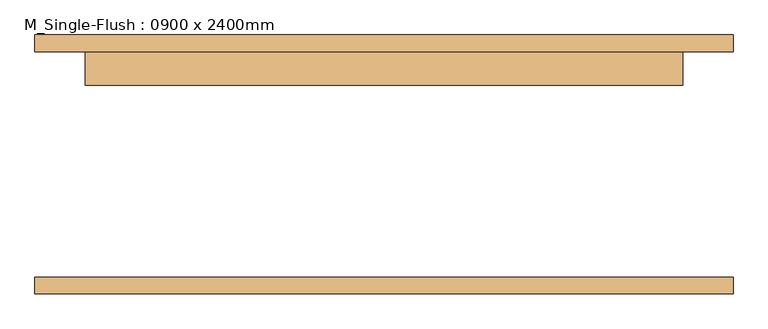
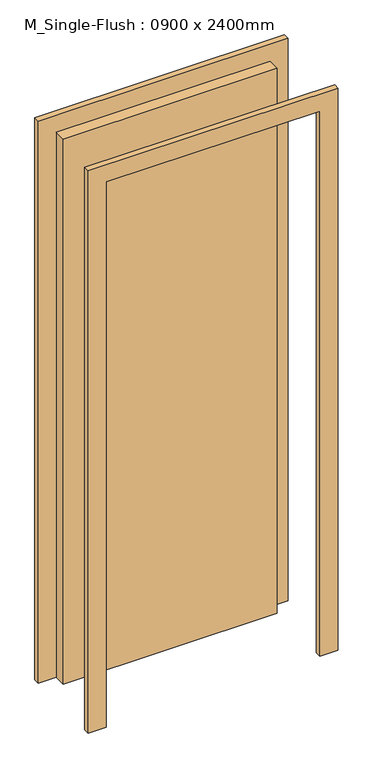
"""IFC4 building model written with IfcOpenShell, lengths in millimetres: door geometry, M_Single-Flush : 0900 x 2400mm."""

from ifc_helpers import new_model, si_unit, frame, origin, origin_with_axes, place, context, project, spatial, polyline, outline, extrude, source, transform, mapped, element, save


def m_single_flush_0900_x_2400mm_ed8d41a7(model_context):
    return source(origin(), model_context, "Body", "SweptSolid", [
        extrude(outline(polyline([(450.0, 119.0), (-450.0, 119.0), (-450.0, 170.0), (450.0, 170.0), (450.0, 119.0)])), origin_with_axes(), (0.0, 0.0, 1.0), 2425.0),
        extrude(outline(polyline([(2501.0, -526.0), (0.0, -526.0), (0.0, -450.0), (2425.0, -450.0), (2425.0, 450.0), (0.0, 450.0), (0.0, 526.0), (2501.0, 526.0), (2501.0, -526.0)])), frame((0.0, 170.0, 0.0), z_axis=(0.0, 1.0, 0.0), x_axis=(0.0, 0.0, 1.0)), (0.0, 0.0, 1.0), 25.0),
        extrude(outline(polyline([(2501.0, 526.0), (2501.0, -526.0), (0.0, -526.0), (0.0, -450.0), (2425.0, -450.0), (2425.0, 450.0), (0.0, 450.0), (0.0, 526.0), (2501.0, 526.0)])), frame((0.0, -195.0, 0.0), z_axis=(0.0, 1.0, 0.0), x_axis=(0.0, 0.0, 1.0)), (0.0, 0.0, 1.0), 25.0),
    ])


if __name__ == "__main__":
    model = new_model("IFC4")
    model_context = context("Model", 3, world=origin())
    ifc_project = project(units=[si_unit("LENGTHUNIT", "METRE", prefix="MILLI")], contexts=[model_context])
    site = spatial("IfcSite", under=ifc_project)
    building = spatial("IfcBuilding", under=site)
    placement = place(None, origin())
    m_single_flush_0900_x_2400mm_shape = m_single_flush_0900_x_2400mm_ed8d41a7(model_context)
    element("IfcDoor", 1, ObjectType="M_Single-Flush : 0900 x 2400mm", at=placement, inside=building, context=model_context, shape_type="MappedRepresentation", body=[
        mapped(m_single_flush_0900_x_2400mm_shape, transform((0.0, 0.0, 0.0), x_axis=(1.0, 0.0, 0.0), y_axis=(0.0, 1.0, 0.0), z_axis=(0.0, 0.0, 1.0))),
    ])
    save(model, "model.ifc")
